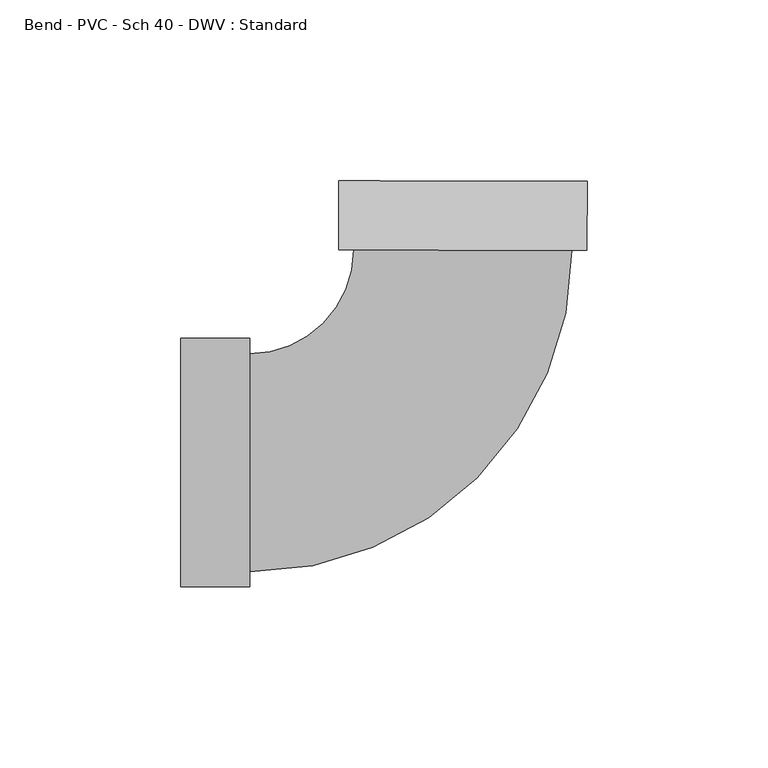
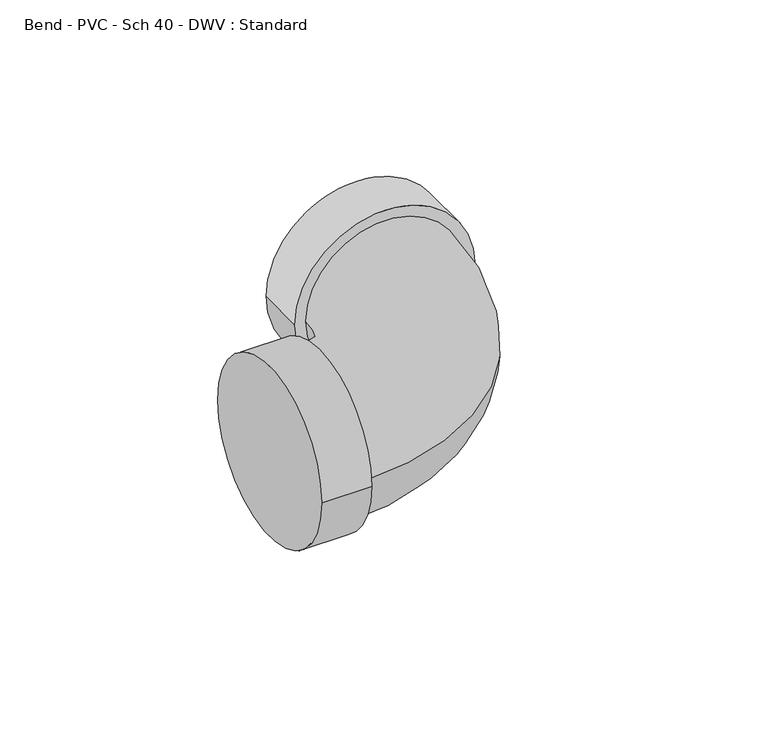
"""IFC4 building model written with IfcOpenShell, lengths in millimetres: pipe fitting geometry, Bend - PVC - Sch 40 - DWV : Standard."""

from ifc_helpers import new_model, si_unit, point, frame, origin, place, context, project, spatial, circle_curve, ellipse_curve, trimmed, source, transform, mapped, element, save
from ifc_brep_helpers import plane_surface, cylinder_surface, revolved_surface, advanced_brep


def bend_pvc_sch_40_dwv_standard_ae25a3c1(model_context):
    return source(origin(), model_context, "Body", "AdvancedBrep", [
        advanced_brep(
        [(-77.8002, -34.3154, 0.0), (-77.8002, 34.3154, 0.0), (-58.7502, -34.3154, 0.0), (-58.7502, 34.3154, 0.0), (-58.7502, -30.1625, 0.0), (-58.7502, 30.1625, 0.0), (-30.0342706, 58.8158567, 0.0), (30.2905858, 58.6842638, 0.0), (34.443476, 58.6752047, 0.0), (-34.1871608, 58.8249158, 0.0), (34.4850316, 77.7251593, 0.0), (-34.1456051, 77.8748705, 0.0)],
        [
            (0, 1, circle_curve(frame((-77.8002, 0.0, 0.0), z_axis=(-1.0, 0.0, 0.0), x_axis=(0.0, 1.0, 0.0)), 34.3154)),
            (1, 0, circle_curve(frame((-77.8002, 0.0, 0.0), z_axis=(-1.0, 0.0, 0.0), x_axis=(0.0, 1.0, 0.0)), 34.3154)),
            (2, 3, circle_curve(frame((-58.7502, 0.0, 0.0), z_axis=(1.0, 0.0, 0.0), x_axis=(0.0, 1.0, 0.0)), 34.3154)),
            (3, 2, circle_curve(frame((-58.7502, 0.0, 0.0), z_axis=(1.0, 0.0, 0.0), x_axis=(0.0, 1.0, 0.0)), 34.3154)),
            (4, 5, circle_curve(frame((-58.7502, 0.0, 0.0), z_axis=(-1.0, 0.0, 0.0), x_axis=(0.0, 1.0, 0.0)), 30.1625)),
            (5, 4, circle_curve(frame((-58.7502, 0.0, 0.0), z_axis=(-1.0, 0.0, 0.0), x_axis=(0.0, 1.0, 0.0)), 30.1625)),
            (0, 2),
            (3, 1),
            (6, 5, circle_curve(frame((-58.7502, 58.8784977, 0.0), z_axis=(0.0, 0.0, -1.0), x_axis=(0.0, -1.0, 0.0)), 28.7159977)),
            (4, 7, circle_curve(frame((-58.7502, 58.8784977, 0.0), z_axis=(0.0, 0.0, 1.0), x_axis=(0.0, -1.0, 0.0)), 89.0409977)),
            (7, 6, circle_curve(frame((0.1281576, 58.7500602, 0.0), z_axis=(-0.0021813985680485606, -0.9999976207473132, 0.0), x_axis=(-0.9999976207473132, 0.0021813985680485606, 0.0)), 30.1625)),
            (6, 7, circle_curve(frame((0.1281576, 58.7500602, 0.0), z_axis=(-0.0021813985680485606, -0.9999976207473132, 0.0), x_axis=(-0.9999976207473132, 0.0021813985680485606, 0.0)), 30.1625)),
            (8, 9, circle_curve(frame((0.1281576, 58.7500602, 0.0), z_axis=(-0.0021813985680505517, -0.9999976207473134, 0.0), x_axis=(-0.9999976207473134, 0.0021813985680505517, 0.0)), 34.3154)),
            (9, 8, circle_curve(frame((0.1281576, 58.7500602, 0.0), z_axis=(-0.0021813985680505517, -0.9999976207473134, 0.0), x_axis=(-0.9999976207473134, 0.0021813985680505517, 0.0)), 34.3154)),
            (10, 11, circle_curve(frame((0.1697132, 77.8000149, 0.0), z_axis=(0.0021813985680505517, 0.9999976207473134, 0.0), x_axis=(-0.9999976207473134, 0.0021813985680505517, 0.0)), 34.3154)),
            (11, 10, circle_curve(frame((0.1697132, 77.8000149, 0.0), z_axis=(0.0021813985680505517, 0.9999976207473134, 0.0), x_axis=(-0.9999976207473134, 0.0021813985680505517, 0.0)), 34.3154)),
            (8, 10),
            (11, 9),
        ],
        [
            plane_surface(frame((-77.8002, 0.0, 0.0), z_axis=(-1.0, 0.0, 0.0), x_axis=(0.0, 0.0, 1.0))),
            plane_surface(frame((-58.7502, 0.0, 0.0), z_axis=(1.0, 0.0, 0.0), x_axis=(0.0, 0.0, 1.0))),
            cylinder_surface(frame((-77.8002, 0.0, 0.0), z_axis=(-1.0, 0.0, 0.0), x_axis=(0.0, 1.0, 0.0)), 34.3154),
            revolved_surface(trimmed(ellipse_curve(frame((-58.7502, 0.0, 0.0), z_axis=(-1.0, 0.0, 0.0), x_axis=(0.0, 1.0, 0.0)), 30.1625, 30.1625), [point((-58.7502, -30.1625, 0.0))], [point((-58.7502, 30.1625, 0.0))], True, "CARTESIAN"), (-58.7502, 58.8784977, 0.0), (0.0, 0.0, 1.0)),
            revolved_surface(trimmed(ellipse_curve(frame((-58.7502, 0.0, 0.0), z_axis=(-1.0, 0.0, 0.0), x_axis=(0.0, 1.0, 0.0)), 30.1625, 30.1625), [point((-58.7502, 30.1625, 0.0))], [point((-58.7502, -30.1625, 0.0))], True, "CARTESIAN"), (-58.7502, 58.8784977, 0.0), (0.0, 0.0, 1.0)),
            plane_surface(frame((0.1281576, 58.7500602, 0.0), z_axis=(-0.0021813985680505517, -0.9999976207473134, 0.0), x_axis=(0.0, 0.0, 1.0))),
            plane_surface(frame((0.1697132, 77.8000149, 0.0), z_axis=(0.0021813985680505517, 0.9999976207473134, 0.0), x_axis=(0.0, 0.0, 1.0))),
            cylinder_surface(frame((0.1281576, 58.7500602, 0.0), z_axis=(-0.0021813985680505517, -0.9999976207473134, 0.0), x_axis=(-0.9999976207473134, 0.0021813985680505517, 0.0)), 34.3154),
        ],
        [
            (0, [[1, 2]]),
            (1, [[3, 4], [5, 6]]),
            (2, [[-1, 7, -4, 8]]),
            (2, [[-2, -8, -3, -7]]),
            (3, [[9, -5, 10, 11]]),
            (4, [[-9, 12, -10, -6]]),
            (5, [[13, 14], [-11, -12]]),
            (6, [[15, 16]]),
            (7, [[-13, 17, -16, 18]]),
            (7, [[-14, -18, -15, -17]]),
        ],
    ),
    ])


if __name__ == "__main__":
    model = new_model("IFC4")
    model_context = context("Model", 3, world=origin())
    ifc_project = project(units=[si_unit("LENGTHUNIT", "METRE", prefix="MILLI")], contexts=[model_context])
    site = spatial("IfcSite", under=ifc_project)
    building = spatial("IfcBuilding", under=site)
    placement = place(None, origin())
    bend_pvc_sch_40_dwv_standard_shape = bend_pvc_sch_40_dwv_standard_ae25a3c1(model_context)
    element("IfcPipeFitting", 1, ObjectType="Bend - PVC - Sch 40 - DWV : Standard", at=placement, inside=building, context=model_context, shape_type="MappedRepresentation", body=[
        mapped(bend_pvc_sch_40_dwv_standard_shape, transform((0.0, 0.0, 0.0), x_axis=(1.0, 0.0, 0.0), y_axis=(0.0, 1.0, 0.0), z_axis=(0.0, 0.0, 1.0))),
    ])
    save(model, "model.ifc")
